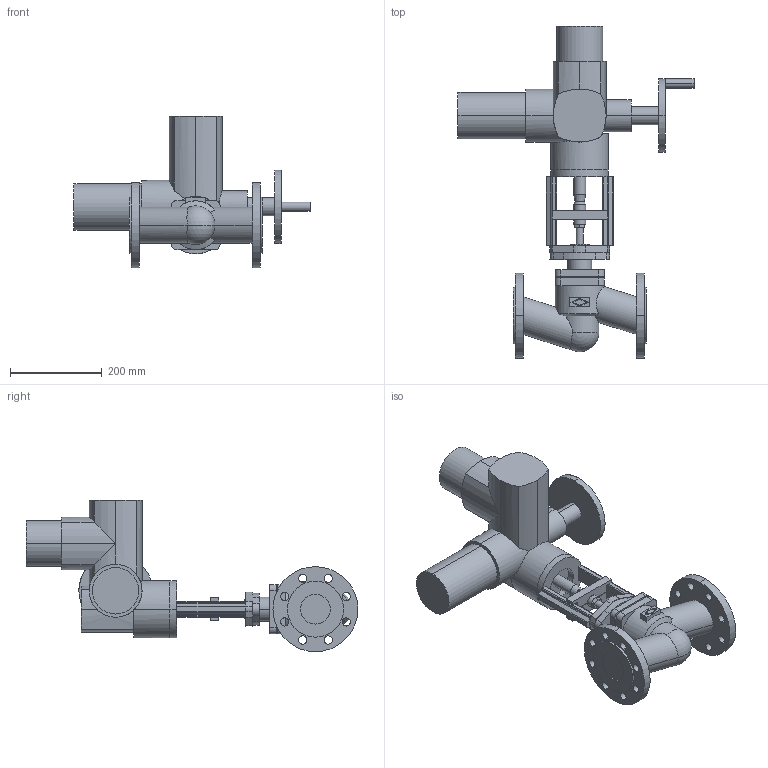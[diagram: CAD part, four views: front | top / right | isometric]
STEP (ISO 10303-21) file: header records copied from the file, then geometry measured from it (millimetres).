
FILE_DESCRIPTION(('OneSpaceDesigner STEP Export'),'2;1');
FILE_NAME('c000003103.stp','2007-01-09T11:41:57',(''),(''),'OneSpace Designer STEP processor for AP214 (Solid Model)','OneSpace Designer 14.00B 27-May-2006 (C) CoCreate Software GmbH','');
FILE_SCHEMA(('AUTOMOTIVE_DESIGN { 1 0 10303 214 1 1 1 1 }'));
Length unit declared in the file: millimetre
Products named in the file (3): 1; 2; 3
Bounding box: 514 x 722.5 x 329.5 mm (x, y, z)
Volume: 11862266.4 mm3; surface area: 733455.9 mm2
Topology: 3 solids, 3 shells, 281 faces, 725 edges, 464 vertices
Faces by surface type: cylinder 148, plane 125, cone 6, sphere 2
Entity records: 8422 total; most frequent: CARTESIAN_POINT 1936, ORIENTED_EDGE 1446, DIRECTION 1201, EDGE_CURVE 723, VERTEX_POINT 464, AXIS2_PLACEMENT_3D 406, VECTOR 389, LINE 389
